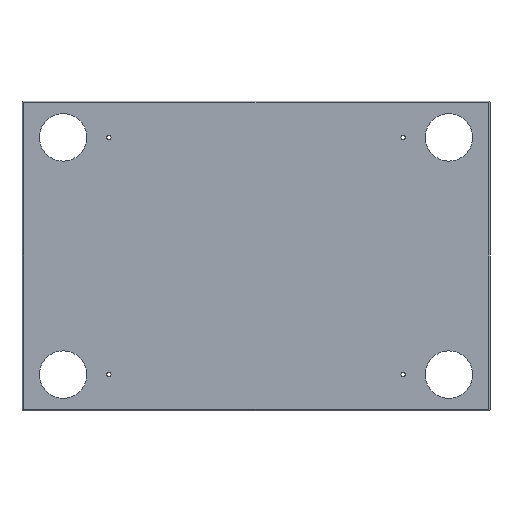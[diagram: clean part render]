
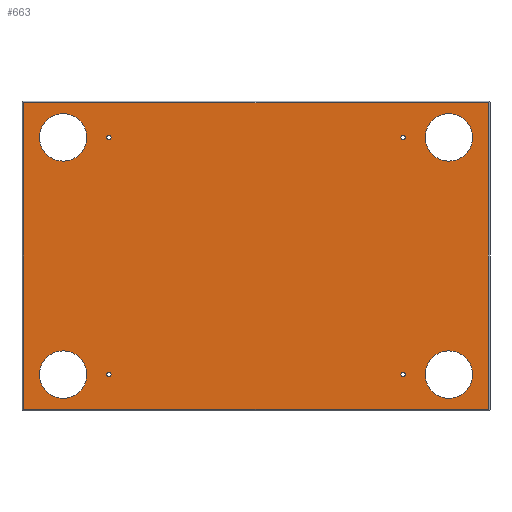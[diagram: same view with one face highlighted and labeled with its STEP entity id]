
A CAD part, front view. The second image highlights one B-rep face of the part: STEP entity #663.
In plain terms, the highlighted planar face has unit normal (0, -1, 0).
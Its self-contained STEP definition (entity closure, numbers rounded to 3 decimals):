
#40=CIRCLE('',#719,1.321);
#41=CIRCLE('',#720,1.321);
#42=CIRCLE('',#721,1.321);
#43=CIRCLE('',#722,1.321);
#44=CIRCLE('',#723,15.);
#45=CIRCLE('',#724,15.);
#46=CIRCLE('',#725,15.);
#47=CIRCLE('',#726,15.);
#100=ORIENTED_EDGE('',*,*,#256,.F.);
#101=ORIENTED_EDGE('',*,*,#257,.F.);
#102=ORIENTED_EDGE('',*,*,#258,.F.);
#103=ORIENTED_EDGE('',*,*,#259,.F.);
#104=ORIENTED_EDGE('',*,*,#260,.F.);
#105=ORIENTED_EDGE('',*,*,#261,.F.);
#106=ORIENTED_EDGE('',*,*,#262,.F.);
#107=ORIENTED_EDGE('',*,*,#263,.F.);
#108=ORIENTED_EDGE('',*,*,#264,.F.);
#109=ORIENTED_EDGE('',*,*,#250,.F.);
#110=ORIENTED_EDGE('',*,*,#265,.T.);
#111=ORIENTED_EDGE('',*,*,#252,.T.);
#250=EDGE_CURVE('',#327,#324,#394,.T.);
#252=EDGE_CURVE('',#329,#328,#396,.T.);
#256=EDGE_CURVE('',#332,#332,#40,.F.);
#257=EDGE_CURVE('',#333,#333,#41,.F.);
#258=EDGE_CURVE('',#334,#334,#42,.F.);
#259=EDGE_CURVE('',#335,#335,#43,.F.);
#260=EDGE_CURVE('',#336,#336,#44,.T.);
#261=EDGE_CURVE('',#337,#337,#45,.T.);
#262=EDGE_CURVE('',#338,#338,#46,.T.);
#263=EDGE_CURVE('',#339,#339,#47,.T.);
#264=EDGE_CURVE('',#324,#328,#400,.T.);
#265=EDGE_CURVE('',#327,#329,#401,.T.);
#324=VERTEX_POINT('',#1017);
#327=VERTEX_POINT('',#1023);
#328=VERTEX_POINT('',#1027);
#329=VERTEX_POINT('',#1029);
#332=VERTEX_POINT('',#1037);
#333=VERTEX_POINT('',#1039);
#334=VERTEX_POINT('',#1041);
#335=VERTEX_POINT('',#1043);
#336=VERTEX_POINT('',#1045);
#337=VERTEX_POINT('',#1047);
#338=VERTEX_POINT('',#1049);
#339=VERTEX_POINT('',#1051);
#394=LINE('',#1024,#442);
#396=LINE('',#1028,#444);
#400=LINE('',#1052,#448);
#401=LINE('',#1053,#449);
#442=VECTOR('',#815,1000.);
#444=VECTOR('',#819,1000.);
#448=VECTOR('',#841,1000.);
#449=VECTOR('',#842,1000.);
#477=EDGE_LOOP('',(#100));
#478=EDGE_LOOP('',(#101));
#479=EDGE_LOOP('',(#102));
#480=EDGE_LOOP('',(#103));
#481=EDGE_LOOP('',(#104));
#482=EDGE_LOOP('',(#105));
#483=EDGE_LOOP('',(#106));
#484=EDGE_LOOP('',(#107));
#485=EDGE_LOOP('',(#108,#109,#110,#111));
#559=FACE_BOUND('',#477,.T.);
#560=FACE_BOUND('',#478,.T.);
#561=FACE_BOUND('',#479,.T.);
#562=FACE_BOUND('',#480,.T.);
#563=FACE_BOUND('',#481,.T.);
#564=FACE_BOUND('',#482,.T.);
#565=FACE_BOUND('',#483,.T.);
#566=FACE_BOUND('',#484,.T.);
#567=FACE_BOUND('',#485,.T.);
#641=PLANE('',#718);
#663=ADVANCED_FACE('',(#559,#560,#561,#562,#563,#564,#565,#566,#567),#641,
 .F.);
#718=AXIS2_PLACEMENT_3D('',#1035,#823,#824);
#719=AXIS2_PLACEMENT_3D('',#1036,#825,#826);
#720=AXIS2_PLACEMENT_3D('',#1038,#827,#828);
#721=AXIS2_PLACEMENT_3D('',#1040,#829,#830);
#722=AXIS2_PLACEMENT_3D('',#1042,#831,#832);
#723=AXIS2_PLACEMENT_3D('',#1044,#833,#834);
#724=AXIS2_PLACEMENT_3D('',#1046,#835,#836);
#725=AXIS2_PLACEMENT_3D('',#1048,#837,#838);
#726=AXIS2_PLACEMENT_3D('',#1050,#839,#840);
#815=DIRECTION('',(0.,0.,-1.));
#819=DIRECTION('',(0.,0.,-1.));
#823=DIRECTION('',(0.,1.,0.));
#824=DIRECTION('',(0.,0.,1.));
#825=DIRECTION('',(0.,1.,0.));
#826=DIRECTION('',(0.,0.,1.));
#827=DIRECTION('',(0.,1.,0.));
#828=DIRECTION('',(0.,0.,1.));
#829=DIRECTION('',(0.,1.,0.));
#830=DIRECTION('',(0.,0.,1.));
#831=DIRECTION('',(0.,1.,0.));
#832=DIRECTION('',(0.,0.,1.));
#833=DIRECTION('',(0.,-1.,0.));
#834=DIRECTION('',(0.,0.,-1.));
#835=DIRECTION('',(0.,-1.,0.));
#836=DIRECTION('',(0.,0.,-1.));
#837=DIRECTION('',(0.,-1.,0.));
#838=DIRECTION('',(0.,0.,-1.));
#839=DIRECTION('',(0.,-1.,0.));
#840=DIRECTION('',(0.,0.,-1.));
#841=DIRECTION('',(-1.,0.,0.));
#842=DIRECTION('',(-1.,0.,0.));
#1017=CARTESIAN_POINT('',(147.,0.,-97.));
#1023=CARTESIAN_POINT('',(147.,0.,97.));
#1024=CARTESIAN_POINT('',(147.,0.,98.));
#1027=CARTESIAN_POINT('',(-147.,0.,-97.));
#1028=CARTESIAN_POINT('',(-147.,0.,98.));
#1029=CARTESIAN_POINT('',(-147.,0.,97.));
#1035=CARTESIAN_POINT('',(-147.,0.,98.));
#1036=CARTESIAN_POINT('',(93.,0.,75.));
#1037=CARTESIAN_POINT('',(93.,0.,76.321));
#1038=CARTESIAN_POINT('',(-93.,0.,75.));
#1039=CARTESIAN_POINT('',(-93.,0.,76.321));
#1040=CARTESIAN_POINT('',(93.,0.,-75.));
#1041=CARTESIAN_POINT('',(93.,0.,-73.679));
#1042=CARTESIAN_POINT('',(-93.,0.,-75.));
#1043=CARTESIAN_POINT('',(-93.,0.,-73.679));
#1044=CARTESIAN_POINT('',(122.,0.,75.));
#1045=CARTESIAN_POINT('',(122.,0.,60.));
#1046=CARTESIAN_POINT('',(-122.,0.,75.));
#1047=CARTESIAN_POINT('',(-122.,0.,60.));
#1048=CARTESIAN_POINT('',(122.,0.,-75.));
#1049=CARTESIAN_POINT('',(122.,0.,-90.));
#1050=CARTESIAN_POINT('',(-122.,0.,-75.));
#1051=CARTESIAN_POINT('',(-122.,0.,-90.));
#1052=CARTESIAN_POINT('',(-147.,0.,-97.));
#1053=CARTESIAN_POINT('',(148.,0.,97.));
